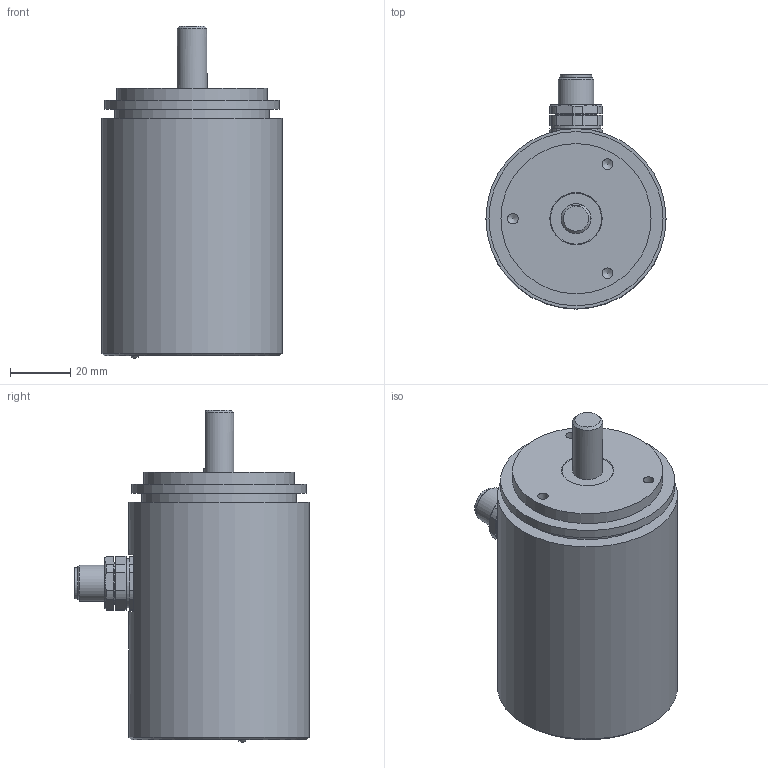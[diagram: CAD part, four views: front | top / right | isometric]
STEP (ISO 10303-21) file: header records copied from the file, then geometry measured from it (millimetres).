
FILE_DESCRIPTION(/* description */ ('Alibre Inc.'),/* implementation_level */ '2;1');
FILE_NAME(/* name */ 'export0',/* time_stamp */ '2016-10-21T14:17:53-04:00',/* author */ (''),/* organization */ (''),/* preprocessor_version */ 'ST-DEVELOPER v14',/* originating_system */ 'Alibre',/* authorisation */ '');
FILE_SCHEMA (('CONFIG_CONTROL_DESIGN'));
Length unit declared in the file: centimetre
Products named in the file (1): ID_1
Bounding box: 60 x 77.96 x 110.58 mm (x, y, z)
Volume: 161583.8 mm3; surface area: 41570.3 mm2
Topology: 3 solids, 43 shells, 276 faces, 470 edges, 310 vertices
Faces by surface type: plane 146, cylinder 100, cone 26, bspline 3, torus 1
Full cylindrical faces by diameter (mm): 1.4 x8, 2.87 x2, 3 x35, 3.545 x3, 8.3 x1, 9.9 x2, 10 x3, 10.5 x1, 11.8 x1, 12 x1, 13.5 x2, 14 x1, 15.2 x1, 16.5 x1, 17 x1, 20 x1, 26 x1, 46 x1, 50 x1, 51.5 x1, 55.8 x1, 58 x1, 60 x1
Entity records: 5784 total; most frequent: CARTESIAN_POINT 1072, DIRECTION 934, ORIENTED_EDGE 706, AXIS2_PLACEMENT_3D 472, FACE_BOUND 412, EDGE_LOOP 409, EDGE_CURVE 353, VERTEX_POINT 291
